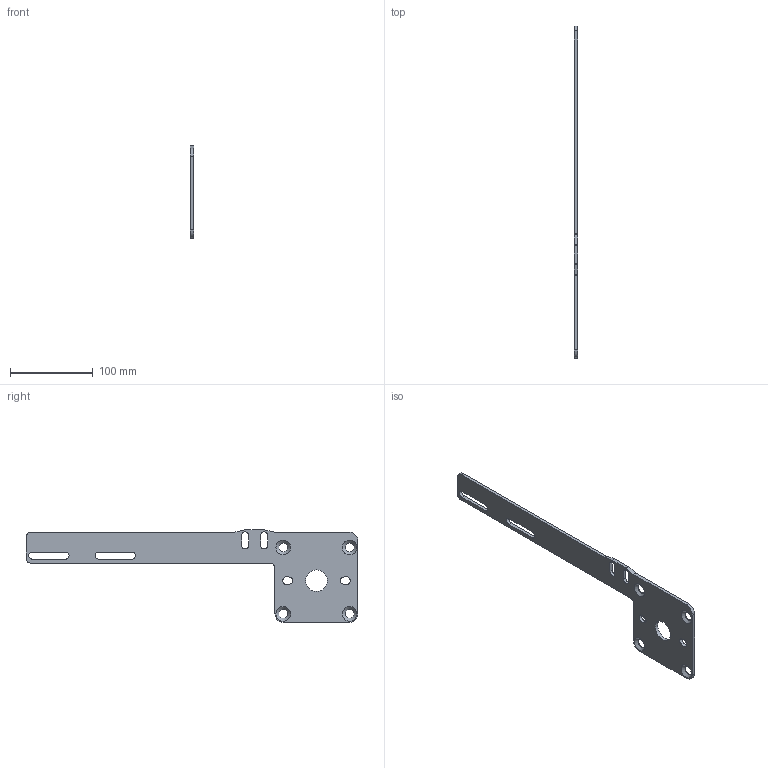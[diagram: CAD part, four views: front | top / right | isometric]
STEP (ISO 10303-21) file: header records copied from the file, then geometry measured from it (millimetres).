
FILE_DESCRIPTION(/* description */ ('MOUNTING PLATE WITH CONNECTION STRIP'),/* implementation_level */ '2;1');
FILE_NAME(/* name */ '500-3119R.stp',/* time_stamp */ '2022-09-22T08:54:14+02:00',/* author */ ('ML'),/* organization */ ('CARRYLINE'),/* preprocessor_version */ 'ST-DEVELOPER v19.2',/* originating_system */ 'Autodesk Inventor 2023',/* authorisation */ '');
FILE_SCHEMA (('AUTOMOTIVE_DESIGN { 1 0 10303 214 3 1 1 }'));
Length unit declared in the file: millimetre
Products named in the file (1): 500-3119R
Bounding box: 4 x 400 x 111.3 mm (x, y, z)
Volume: 78388.4 mm3; surface area: 45853.6 mm2
Topology: 1 solids, 1 shells, 51 faces, 143 edges, 94 vertices
Faces by surface type: cylinder 27, plane 20, cone 4
Full cylindrical faces by diameter (mm): 11 x4, 26 x1
Entity records: 1750 total; most frequent: DIRECTION 305, CARTESIAN_POINT 289, ORIENTED_EDGE 286, EDGE_CURVE 143, AXIS2_PLACEMENT_3D 110, VERTEX_POINT 94, LINE 85, VECTOR 85
